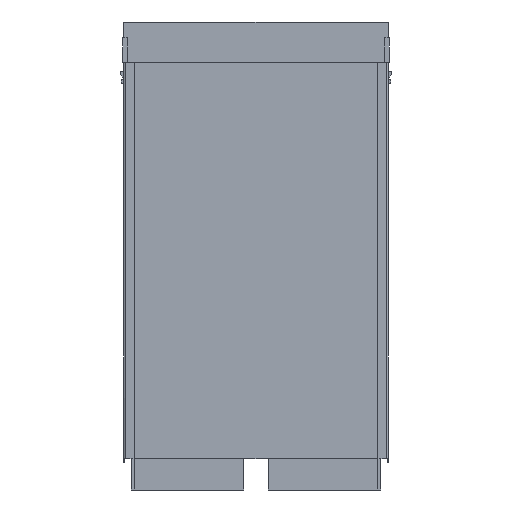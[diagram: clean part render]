
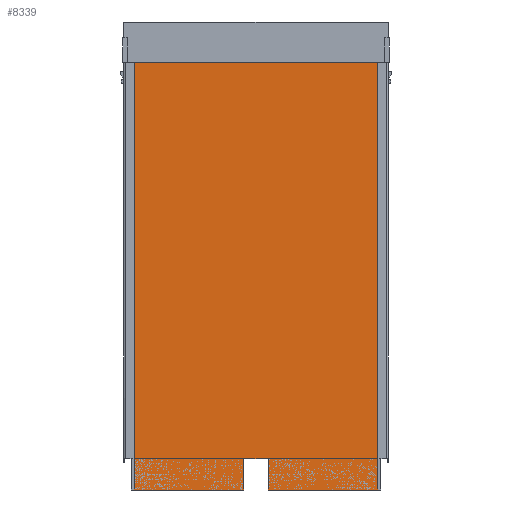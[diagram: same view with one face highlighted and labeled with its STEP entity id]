
A CAD part, front view. The second image highlights one B-rep face of the part: STEP entity #8339.
In plain terms, the highlighted planar face has unit normal (0, -1, 0).
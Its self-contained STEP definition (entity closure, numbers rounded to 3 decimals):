
#61=DIRECTION('',(1.,0.,0.));
#62=VECTOR('',#61,50.);
#63=CARTESIAN_POINT('',(-25.,0.2,0.));
#64=LINE('',#63,#62);
#180=DIRECTION('',(0.,0.,-1.));
#181=VECTOR('',#180,868.);
#182=CARTESIAN_POINT('',(-247.5,0.2,805.));
#183=LINE('',#182,#181);
#184=DIRECTION('',(0.,0.,1.));
#185=VECTOR('',#184,63.);
#186=CARTESIAN_POINT('',(-25.,0.2,-63.));
#187=LINE('',#186,#185);
#188=DIRECTION('',(0.,0.,-1.));
#189=VECTOR('',#188,868.);
#190=CARTESIAN_POINT('',(247.5,0.2,805.));
#191=LINE('',#190,#189);
#492=DIRECTION('',(0.,0.,1.));
#493=VECTOR('',#492,63.);
#494=CARTESIAN_POINT('',(25.,0.2,-63.));
#495=LINE('',#494,#493);
#508=DIRECTION('',(-1.,0.,0.));
#509=VECTOR('',#508,222.5);
#510=CARTESIAN_POINT('',(247.5,0.2,-63.));
#511=LINE('',#510,#509);
#540=DIRECTION('',(-1.,0.,0.));
#541=VECTOR('',#540,222.5);
#542=CARTESIAN_POINT('',(-25.,0.2,-63.));
#543=LINE('',#542,#541);
#2262=DIRECTION('',(1.,0.,0.));
#2263=VECTOR('',#2262,495.);
#2264=CARTESIAN_POINT('',(-247.5,0.2,805.));
#2265=LINE('',#2264,#2263);
#6105=CARTESIAN_POINT('',(247.5,0.2,805.));
#6107=VERTEX_POINT('',#6105);
#6109=CARTESIAN_POINT('',(-247.5,0.2,805.));
#6111=VERTEX_POINT('',#6109);
#8038=CARTESIAN_POINT('',(247.5,0.2,-63.));
#8039=VERTEX_POINT('',#8038);
#8040=CARTESIAN_POINT('',(25.,0.2,-63.));
#8041=VERTEX_POINT('',#8040);
#8045=CARTESIAN_POINT('',(-25.,0.2,-63.));
#8047=VERTEX_POINT('',#8045);
#8048=CARTESIAN_POINT('',(-247.5,0.2,-63.));
#8049=VERTEX_POINT('',#8048);
#8060=CARTESIAN_POINT('',(25.,0.2,0.));
#8062=VERTEX_POINT('',#8060);
#8068=CARTESIAN_POINT('',(-25.,0.2,0.));
#8070=VERTEX_POINT('',#8068);
#8318=CARTESIAN_POINT('',(-268.5,0.2,0.));
#8319=DIRECTION('',(0.,-1.,0.));
#8320=DIRECTION('',(1.,0.,0.));
#8321=AXIS2_PLACEMENT_3D('',#8318,#8319,#8320);
#8322=PLANE('',#8321);
#8323=ORIENTED_EDGE('',*,*,#8161,.F.);
#8325=ORIENTED_EDGE('',*,*,#8324,.F.);
#8327=ORIENTED_EDGE('',*,*,#8326,.T.);
#8328=ORIENTED_EDGE('',*,*,#8308,.F.);
#8330=ORIENTED_EDGE('',*,*,#8329,.T.);
#8332=ORIENTED_EDGE('',*,*,#8331,.T.);
#8334=ORIENTED_EDGE('',*,*,#8333,.T.);
#8336=ORIENTED_EDGE('',*,*,#8335,.T.);
#8337=EDGE_LOOP('',(#8323,#8325,#8327,#8328,#8330,#8332,#8334,#8336));
#8338=FACE_OUTER_BOUND('',#8337,.F.);
#8339=ADVANCED_FACE('',(#8338),#8322,.T.);
#8161=EDGE_CURVE('',#8070,#8062,#64,.T.);
#8308=EDGE_CURVE('',#6111,#8049,#183,.T.);
#8324=EDGE_CURVE('',#8047,#8070,#187,.T.);
#8326=EDGE_CURVE('',#8047,#8049,#543,.T.);
#8329=EDGE_CURVE('',#6111,#6107,#2265,.T.);
#8331=EDGE_CURVE('',#6107,#8039,#191,.T.);
#8333=EDGE_CURVE('',#8039,#8041,#511,.T.);
#8335=EDGE_CURVE('',#8041,#8062,#495,.T.);
